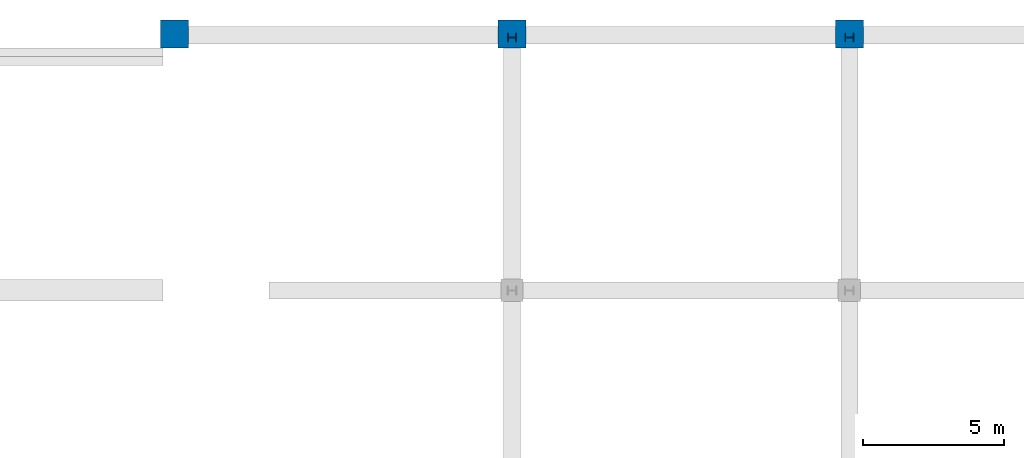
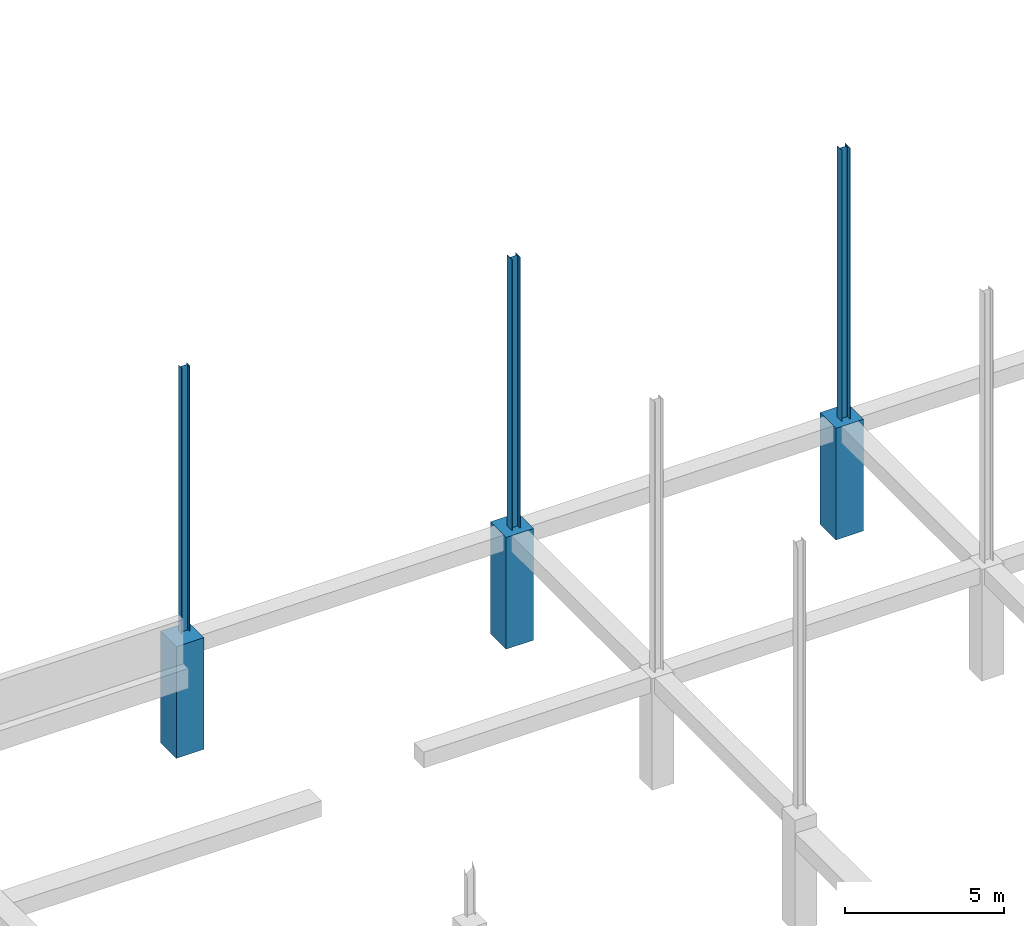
# One storey, part 4 of 19: 6 columns.
"""IFC2X3 building model written with IfcOpenShell, lengths in millimetres."""

from ifc_helpers import new_model, si_unit, origin, place, context, project, spatial, faceted_brep, material, element, save


model = new_model("IFC2X3")

# Units and contexts
context_of_model = context(None, 3, precision=1e-05, world=origin())
ifc_project = project(units=[si_unit("LENGTHUNIT", "METRE", prefix="MILLI")], contexts=[context_of_model])

# Building, storey
building = spatial("IfcBuilding", under=ifc_project, Name="Building", CompositionType="ELEMENT")
storey = spatial("IfcBuildingStorey", under=building, Name="FL2-FRM", CompositionType="ELEMENT")

# Columns
ifc_material_1 = material(Name="C5000")
column_1_placement = place(None, origin())
element("IfcColumn", 1, at=column_1_placement, inside=storey, material=ifc_material_1, Name="Column178", context=context_of_model, shape_type="Brep", body=[
    faceted_brep([(-35500.0, 35617.7, 0.0), (-35500.0, 36617.8, 0.0), (-35500.0, 36617.8, 4296.8), (-35500.0, 35617.7, 4296.8), (-36500.0, 36617.8, 0.0), (-36500.0, 36617.8, 4296.8), (-36500.0, 35617.7, 0.0), (-36500.0, 35617.7, 4296.8)], [[[0, 1, 2, 3]], [[1, 4, 5, 2]], [[4, 6, 7, 5]], [[6, 0, 3, 7]], [[0, 6, 4, 1]], [[3, 2, 5, 7]]]),
])
ifc_material_2 = material(Name="C5000")
column_2_placement = place(None, origin())
element("IfcColumn", 2, at=column_2_placement, inside=storey, material=ifc_material_2, Name="Column179", context=context_of_model, shape_type="Brep", body=[
    faceted_brep([(-47500.0, 35617.7, 0.0), (-47500.0, 36617.8, 0.0), (-47500.0, 36617.8, 4296.8), (-47500.0, 35617.7, 4296.8), (-48500.0, 36617.8, 0.0), (-48500.0, 36617.8, 4296.8), (-48500.0, 35617.7, 0.0), (-48500.0, 35617.7, 4296.8)], [[[0, 1, 2, 3]], [[1, 4, 5, 2]], [[4, 6, 7, 5]], [[6, 0, 3, 7]], [[0, 6, 4, 1]], [[3, 2, 5, 7]]]),
])
ifc_material_3 = material(Name="C5000")
column_3_placement = place(None, origin())
element("IfcColumn", 3, at=column_3_placement, inside=storey, material=ifc_material_3, Name="Column180", context=context_of_model, shape_type="Brep", body=[
    faceted_brep([(-59500.0, 35617.7, 0.0), (-59500.0, 36617.8, 0.0), (-59500.0, 36617.8, 4296.8), (-59500.0, 35617.7, 4296.8), (-60500.0, 36617.8, 0.0), (-60500.0, 36617.8, 4296.8), (-60500.0, 35617.7, 0.0), (-60500.0, 35617.7, 4296.8)], [[[0, 1, 2, 3]], [[1, 4, 5, 2]], [[4, 6, 7, 5]], [[6, 0, 3, 7]], [[0, 6, 4, 1]], [[3, 2, 5, 7]]]),
])
ifc_material_4 = material(Name="A992")
column_4_placement = place(None, origin())
element("IfcColumn", 4, at=column_4_placement, inside=storey, material=ifc_material_4, Name="Column278", context=context_of_model, shape_type="Brep", body=[
    faceted_brep([(-35846.0, 35847.5, 4296.8), (-35846.0, 36152.5, 4296.8), (-35846.0, 36152.5, 14719.2), (-35846.0, 35847.5, 14719.2), (-35861.4, 36152.5, 4296.8), (-35861.4, 36152.5, 14719.2), (-35861.4, 36020.1, 4296.8), (-35861.4, 36020.1, 14719.2), (-35861.9, 36016.2, 4296.8), (-35861.9, 36016.2, 14719.2), (-35863.4, 36012.5, 4296.8), (-35863.4, 36012.5, 14719.2), (-35865.9, 36009.4, 4296.8), (-35865.9, 36009.4, 14719.2), (-35869.0, 36007.0, 4296.8), (-35869.0, 36007.0, 14719.2), (-35872.7, 36005.5, 4296.8), (-35872.7, 36005.5, 14719.2), (-35876.6, 36004.9, 4296.8), (-35876.6, 36004.9, 14719.2), (-36123.4, 36004.9, 4296.8), (-36123.4, 36004.9, 14719.2), (-36127.3, 36005.5, 4296.8), (-36127.3, 36005.5, 14719.2), (-36131.0, 36007.0, 4296.8), (-36131.0, 36007.0, 14719.2), (-36134.1, 36009.4, 4296.8), (-36134.1, 36009.4, 14719.2), (-36136.6, 36012.5, 4296.8), (-36136.6, 36012.5, 14719.2), (-36138.1, 36016.2, 4296.8), (-36138.1, 36016.2, 14719.2), (-36138.6, 36020.1, 4296.8), (-36138.6, 36020.1, 14719.2), (-36138.6, 36152.5, 4296.8), (-36138.6, 36152.5, 14719.2), (-36154.0, 36152.5, 4296.8), (-36154.0, 36152.5, 14719.2), (-36154.0, 35847.5, 4296.8), (-36154.0, 35847.5, 14719.2), (-36138.6, 35847.5, 4296.8), (-36138.6, 35847.5, 14719.2), (-36138.6, 35979.9, 4296.8), (-36138.6, 35979.9, 14719.2), (-36138.1, 35983.8, 4296.8), (-36138.1, 35983.8, 14719.2), (-36136.6, 35987.5, 4296.8), (-36136.6, 35987.5, 14719.2), (-36134.1, 35990.6, 4296.8), (-36134.1, 35990.6, 14719.2), (-36131.0, 35993.0, 4296.8), (-36131.0, 35993.0, 14719.2), (-36127.3, 35994.5, 4296.8), (-36127.3, 35994.5, 14719.2), (-36123.4, 35995.1, 4296.8), (-36123.4, 35995.1, 14719.2), (-35876.6, 35995.1, 4296.8), (-35876.6, 35995.1, 14719.2), (-35872.7, 35994.5, 4296.8), (-35872.7, 35994.5, 14719.2), (-35869.0, 35993.0, 4296.8), (-35869.0, 35993.0, 14719.2), (-35865.9, 35990.6, 4296.8), (-35865.9, 35990.6, 14719.2), (-35863.4, 35987.5, 4296.8), (-35863.4, 35987.5, 14719.2), (-35861.9, 35983.8, 4296.8), (-35861.9, 35983.8, 14719.2), (-35861.4, 35979.9, 4296.8), (-35861.4, 35979.9, 14719.2), (-35861.4, 35847.5, 4296.8), (-35861.4, 35847.5, 14719.2)], [[[0, 1, 2, 3]], [[1, 4, 5, 2]], [[4, 6, 7, 5]], [[6, 8, 9, 7]], [[8, 10, 11, 9]], [[10, 12, 13, 11]], [[12, 14, 15, 13]], [[14, 16, 17, 15]], [[16, 18, 19, 17]], [[18, 20, 21, 19]], [[20, 22, 23, 21]], [[22, 24, 25, 23]], [[24, 26, 27, 25]], [[26, 28, 29, 27]], [[28, 30, 31, 29]], [[30, 32, 33, 31]], [[32, 34, 35, 33]], [[34, 36, 37, 35]], [[36, 38, 39, 37]], [[38, 40, 41, 39]], [[40, 42, 43, 41]], [[42, 44, 45, 43]], [[44, 46, 47, 45]], [[46, 48, 49, 47]], [[48, 50, 51, 49]], [[50, 52, 53, 51]], [[52, 54, 55, 53]], [[54, 56, 57, 55]], [[56, 58, 59, 57]], [[58, 60, 61, 59]], [[60, 62, 63, 61]], [[62, 64, 65, 63]], [[64, 66, 67, 65]], [[66, 68, 69, 67]], [[68, 70, 71, 69]], [[70, 0, 3, 71]], [[0, 70, 68, 66, 64, 62, 60, 58, 56, 54, 52, 50, 48, 46, 44, 42, 40, 38, 36, 34, 32, 30, 28, 26, 24, 22, 20, 18, 16, 14, 12, 10, 8, 6, 4, 1]], [[3, 2, 5, 7, 9, 11, 13, 15, 17, 19, 21, 23, 25, 27, 29, 31, 33, 35, 37, 39, 41, 43, 45, 47, 49, 51, 53, 55, 57, 59, 61, 63, 65, 67, 69, 71]]]),
])
ifc_material_5 = material(Name="A992")
column_5_placement = place(None, origin())
element("IfcColumn", 5, at=column_5_placement, inside=storey, material=ifc_material_5, Name="Column296", context=context_of_model, shape_type="Brep", body=[
    faceted_brep([(-59848.5, 35898.5, 4500.0), (-59848.5, 36101.5, 4500.0), (-59848.5, 36101.5, 14719.2), (-59848.5, 35898.5, 14719.2), (-59861.6, 36101.5, 4500.0), (-59861.6, 36101.5, 14719.2), (-59861.6, 36016.4, 4500.0), (-59861.6, 36016.4, 14719.2), (-59862.0, 36013.2, 4500.0), (-59862.0, 36013.2, 14719.2), (-59863.3, 36010.1, 4500.0), (-59863.3, 36010.1, 14719.2), (-59865.3, 36007.5, 4500.0), (-59865.3, 36007.5, 14719.2), (-59868.0, 36005.5, 4500.0), (-59868.0, 36005.5, 14719.2), (-59871.0, 36004.2, 4500.0), (-59871.0, 36004.2, 14719.2), (-59874.3, 36003.8, 4500.0), (-59874.3, 36003.8, 14719.2), (-60125.7, 36003.8, 4500.0), (-60125.7, 36003.8, 14719.2), (-60129.0, 36004.2, 4500.0), (-60129.0, 36004.2, 14719.2), (-60132.0, 36005.5, 4500.0), (-60132.0, 36005.5, 14719.2), (-60134.7, 36007.5, 4500.0), (-60134.7, 36007.5, 14719.2), (-60136.7, 36010.1, 4500.0), (-60136.7, 36010.1, 14719.2), (-60138.0, 36013.2, 4500.0), (-60138.0, 36013.2, 14719.2), (-60138.4, 36016.4, 4500.0), (-60138.4, 36016.4, 14719.2), (-60138.4, 36101.5, 4500.0), (-60138.4, 36101.5, 14719.2), (-60151.5, 36101.5, 4500.0), (-60151.5, 36101.5, 14719.2), (-60151.5, 35898.5, 4500.0), (-60151.5, 35898.5, 14719.2), (-60138.4, 35898.5, 4500.0), (-60138.4, 35898.5, 14719.2), (-60138.4, 35983.6, 4500.0), (-60138.4, 35983.6, 14719.2), (-60138.0, 35986.8, 4500.0), (-60138.0, 35986.8, 14719.2), (-60136.7, 35989.9, 4500.0), (-60136.7, 35989.9, 14719.2), (-60134.7, 35992.5, 4500.0), (-60134.7, 35992.5, 14719.2), (-60132.0, 35994.5, 4500.0), (-60132.0, 35994.5, 14719.2), (-60129.0, 35995.8, 4500.0), (-60129.0, 35995.8, 14719.2), (-60125.7, 35996.3, 4500.0), (-60125.7, 35996.3, 14719.2), (-59874.3, 35996.3, 4500.0), (-59874.3, 35996.3, 14719.2), (-59871.0, 35995.8, 4500.0), (-59871.0, 35995.8, 14719.2), (-59868.0, 35994.5, 4500.0), (-59868.0, 35994.5, 14719.2), (-59865.3, 35992.5, 4500.0), (-59865.3, 35992.5, 14719.2), (-59863.3, 35989.9, 4500.0), (-59863.3, 35989.9, 14719.2), (-59862.0, 35986.8, 4500.0), (-59862.0, 35986.8, 14719.2), (-59861.6, 35983.6, 4500.0), (-59861.6, 35983.6, 14719.2), (-59861.6, 35898.5, 4500.0), (-59861.6, 35898.5, 14719.2)], [[[0, 1, 2, 3]], [[1, 4, 5, 2]], [[4, 6, 7, 5]], [[6, 8, 9, 7]], [[8, 10, 11, 9]], [[10, 12, 13, 11]], [[12, 14, 15, 13]], [[14, 16, 17, 15]], [[16, 18, 19, 17]], [[18, 20, 21, 19]], [[20, 22, 23, 21]], [[22, 24, 25, 23]], [[24, 26, 27, 25]], [[26, 28, 29, 27]], [[28, 30, 31, 29]], [[30, 32, 33, 31]], [[32, 34, 35, 33]], [[34, 36, 37, 35]], [[36, 38, 39, 37]], [[38, 40, 41, 39]], [[40, 42, 43, 41]], [[42, 44, 45, 43]], [[44, 46, 47, 45]], [[46, 48, 49, 47]], [[48, 50, 51, 49]], [[50, 52, 53, 51]], [[52, 54, 55, 53]], [[54, 56, 57, 55]], [[56, 58, 59, 57]], [[58, 60, 61, 59]], [[60, 62, 63, 61]], [[62, 64, 65, 63]], [[64, 66, 67, 65]], [[66, 68, 69, 67]], [[68, 70, 71, 69]], [[70, 0, 3, 71]], [[0, 70, 68, 66, 64, 62, 60, 58, 56, 54, 52, 50, 48, 46, 44, 42, 40, 38, 36, 34, 32, 30, 28, 26, 24, 22, 20, 18, 16, 14, 12, 10, 8, 6, 4, 1]], [[3, 2, 5, 7, 9, 11, 13, 15, 17, 19, 21, 23, 25, 27, 29, 31, 33, 35, 37, 39, 41, 43, 45, 47, 49, 51, 53, 55, 57, 59, 61, 63, 65, 67, 69, 71]]]),
])
ifc_material_6 = material(Name="A992")
column_6_placement = place(None, origin())
element("IfcColumn", 6, at=column_6_placement, inside=storey, material=ifc_material_6, Name="Column572", context=context_of_model, shape_type="Brep", body=[
    faceted_brep([(-47846.0, 35847.5, 4296.8), (-47846.0, 36152.5, 4296.8), (-47846.0, 36152.5, 14719.2), (-47846.0, 35847.5, 14719.2), (-47861.4, 36152.5, 4296.8), (-47861.4, 36152.5, 14719.2), (-47861.4, 36020.1, 4296.8), (-47861.4, 36020.1, 14719.2), (-47861.9, 36016.2, 4296.8), (-47861.9, 36016.2, 14719.2), (-47863.4, 36012.5, 4296.8), (-47863.4, 36012.5, 14719.2), (-47865.9, 36009.4, 4296.8), (-47865.9, 36009.4, 14719.2), (-47869.0, 36007.0, 4296.8), (-47869.0, 36007.0, 14719.2), (-47872.7, 36005.5, 4296.8), (-47872.7, 36005.5, 14719.2), (-47876.6, 36004.9, 4296.8), (-47876.6, 36004.9, 14719.2), (-48123.4, 36004.9, 4296.8), (-48123.4, 36004.9, 14719.2), (-48127.3, 36005.5, 4296.8), (-48127.3, 36005.5, 14719.2), (-48131.0, 36007.0, 4296.8), (-48131.0, 36007.0, 14719.2), (-48134.1, 36009.4, 4296.8), (-48134.1, 36009.4, 14719.2), (-48136.6, 36012.5, 4296.8), (-48136.6, 36012.5, 14719.2), (-48138.1, 36016.2, 4296.8), (-48138.1, 36016.2, 14719.2), (-48138.6, 36020.1, 4296.8), (-48138.6, 36020.1, 14719.2), (-48138.6, 36152.5, 4296.8), (-48138.6, 36152.5, 14719.2), (-48154.0, 36152.5, 4296.8), (-48154.0, 36152.5, 14719.2), (-48154.0, 35847.5, 4296.8), (-48154.0, 35847.5, 14719.2), (-48138.6, 35847.5, 4296.8), (-48138.6, 35847.5, 14719.2), (-48138.6, 35979.9, 4296.8), (-48138.6, 35979.9, 14719.2), (-48138.1, 35983.8, 4296.8), (-48138.1, 35983.8, 14719.2), (-48136.6, 35987.5, 4296.8), (-48136.6, 35987.5, 14719.2), (-48134.1, 35990.6, 4296.8), (-48134.1, 35990.6, 14719.2), (-48131.0, 35993.0, 4296.8), (-48131.0, 35993.0, 14719.2), (-48127.3, 35994.5, 4296.8), (-48127.3, 35994.5, 14719.2), (-48123.4, 35995.1, 4296.8), (-48123.4, 35995.1, 14719.2), (-47876.6, 35995.1, 4296.8), (-47876.6, 35995.1, 14719.2), (-47872.7, 35994.5, 4296.8), (-47872.7, 35994.5, 14719.2), (-47869.0, 35993.0, 4296.8), (-47869.0, 35993.0, 14719.2), (-47865.9, 35990.6, 4296.8), (-47865.9, 35990.6, 14719.2), (-47863.4, 35987.5, 4296.8), (-47863.4, 35987.5, 14719.2), (-47861.9, 35983.8, 4296.8), (-47861.9, 35983.8, 14719.2), (-47861.4, 35979.9, 4296.8), (-47861.4, 35979.9, 14719.2), (-47861.4, 35847.5, 4296.8), (-47861.4, 35847.5, 14719.2)], [[[0, 1, 2, 3]], [[1, 4, 5, 2]], [[4, 6, 7, 5]], [[6, 8, 9, 7]], [[8, 10, 11, 9]], [[10, 12, 13, 11]], [[12, 14, 15, 13]], [[14, 16, 17, 15]], [[16, 18, 19, 17]], [[18, 20, 21, 19]], [[20, 22, 23, 21]], [[22, 24, 25, 23]], [[24, 26, 27, 25]], [[26, 28, 29, 27]], [[28, 30, 31, 29]], [[30, 32, 33, 31]], [[32, 34, 35, 33]], [[34, 36, 37, 35]], [[36, 38, 39, 37]], [[38, 40, 41, 39]], [[40, 42, 43, 41]], [[42, 44, 45, 43]], [[44, 46, 47, 45]], [[46, 48, 49, 47]], [[48, 50, 51, 49]], [[50, 52, 53, 51]], [[52, 54, 55, 53]], [[54, 56, 57, 55]], [[56, 58, 59, 57]], [[58, 60, 61, 59]], [[60, 62, 63, 61]], [[62, 64, 65, 63]], [[64, 66, 67, 65]], [[66, 68, 69, 67]], [[68, 70, 71, 69]], [[70, 0, 3, 71]], [[0, 70, 68, 66, 64, 62, 60, 58, 56, 54, 52, 50, 48, 46, 44, 42, 40, 38, 36, 34, 32, 30, 28, 26, 24, 22, 20, 18, 16, 14, 12, 10, 8, 6, 4, 1]], [[3, 2, 5, 7, 9, 11, 13, 15, 17, 19, 21, 23, 25, 27, 29, 31, 33, 35, 37, 39, 41, 43, 45, 47, 49, 51, 53, 55, 57, 59, 61, 63, 65, 67, 69, 71]]]),
])

save(model, "model.ifc")
